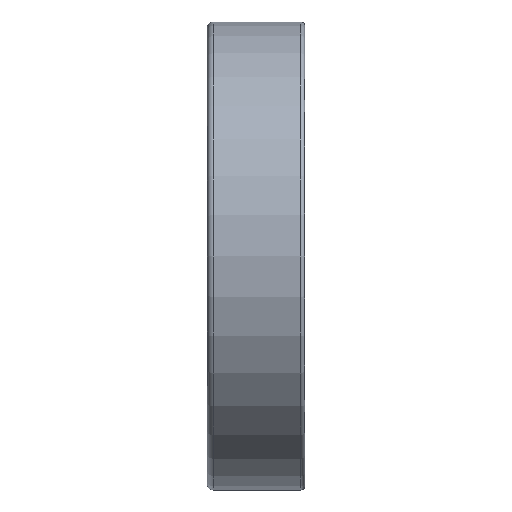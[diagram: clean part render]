
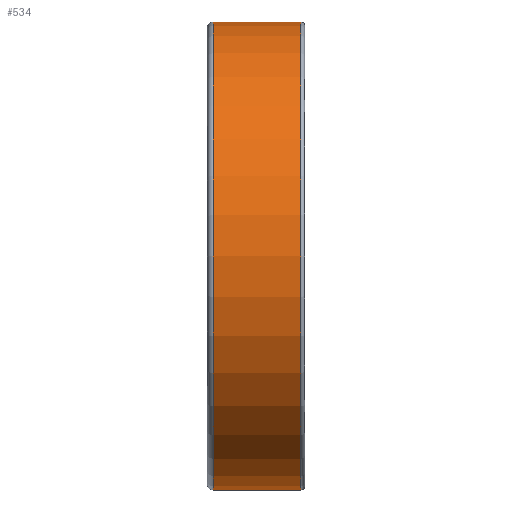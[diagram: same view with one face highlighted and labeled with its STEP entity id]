
A CAD part, front view. The second image highlights one B-rep face of the part: STEP entity #534.
In plain terms, the highlighted cylindrical face has radius 12 mm (diameter 24 mm), a full revolution.
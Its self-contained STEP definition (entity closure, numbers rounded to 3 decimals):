
#164=CYLINDRICAL_SURFACE('',#834,12.);
#260=EDGE_LOOP('',(#368));
#261=EDGE_LOOP('',(#369));
#368=ORIENTED_EDGE('',*,*,#430,.F.);
#369=ORIENTED_EDGE('',*,*,#428,.T.);
#428=EDGE_CURVE('',#763,#763,#448,.T.);
#430=EDGE_CURVE('',#765,#765,#450,.T.);
#448=CIRCLE('',#830,12.);
#450=CIRCLE('',#833,12.);
#534=ADVANCED_FACE('',(#669,#670),#164,.T.);
#669=FACE_BOUND('',#260,.T.);
#670=FACE_BOUND('',#261,.T.);
#763=VERTEX_POINT('',#3082);
#765=VERTEX_POINT('',#3087);
#830=AXIS2_PLACEMENT_3D('',#3081,#955,#956);
#833=AXIS2_PLACEMENT_3D('',#3086,#961,#962);
#834=AXIS2_PLACEMENT_3D('',#3088,#963,#964);
#955=DIRECTION('',(1.,0.,0.));
#956=DIRECTION('',(0.,0.,-1.));
#961=DIRECTION('',(1.,0.,0.));
#962=DIRECTION('',(0.,0.,-1.));
#963=DIRECTION('',(1.,0.,0.));
#964=DIRECTION('',(0.,0.,-1.));
#3081=CARTESIAN_POINT('',(-2.2,0.,0.));
#3082=CARTESIAN_POINT('',(-2.2,0.,-12.));
#3086=CARTESIAN_POINT('',(2.3,0.,0.));
#3087=CARTESIAN_POINT('',(2.3,0.,-12.));
#3088=CARTESIAN_POINT('',(-2.2,0.,0.));
